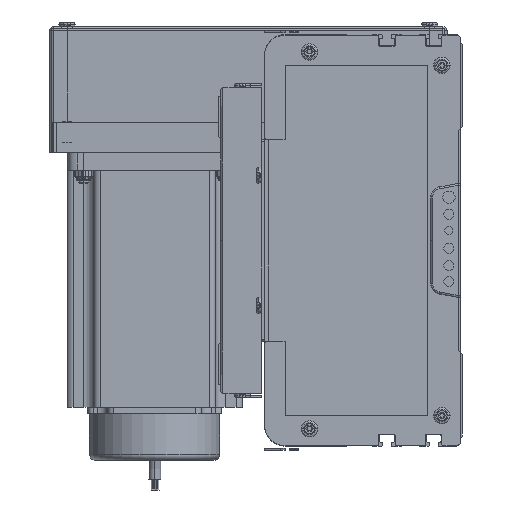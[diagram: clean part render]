
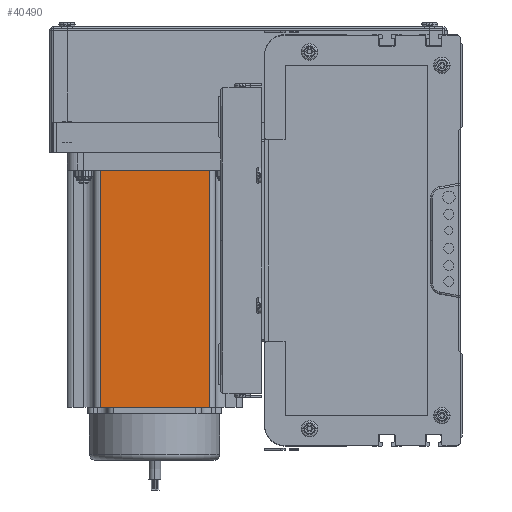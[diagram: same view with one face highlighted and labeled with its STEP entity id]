
A CAD part, left-side view. The second image highlights one B-rep face of the part: STEP entity #40490.
In plain terms, the highlighted planar face has unit normal (-1, 0, 0) as drawn and (0, -1, 0) by its records, which use the part's own axes.
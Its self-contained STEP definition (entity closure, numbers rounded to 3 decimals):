
#40339 = VERTEX_POINT ( 'NONE', #78150 ) ;
#40395 = EDGE_CURVE ( 'NONE', #40339, #40656, #78165, .T. ) ;
#40403 = EDGE_CURVE ( 'NONE', #40339, #40573, #78321, .T. ) ;
#40483 = ORIENTED_EDGE ( 'NONE', *, *, #40395, .F. ) ;
#40490 = ADVANCED_FACE ( 'NONE', ( #99890 ), #99932, .F. ) ;
#40525 = VERTEX_POINT ( 'NONE', #99839 ) ;
#40526 = ORIENTED_EDGE ( 'NONE', *, *, #40528, .T. ) ;
#40527 = ORIENTED_EDGE ( 'NONE', *, *, #40560, .T. ) ;
#40528 = EDGE_CURVE ( 'NONE', #40525, #40656, #99785, .T. ) ;
#40560 = EDGE_CURVE ( 'NONE', #40573, #40525, #99813, .T. ) ;
#40573 = VERTEX_POINT ( 'NONE', #99719 ) ;
#40656 = VERTEX_POINT ( 'NONE', #88379 ) ;
#40680 = EDGE_LOOP ( 'NONE', ( #40527, #40526, #40483, #40796 ) ) ;
#40796 = ORIENTED_EDGE ( 'NONE', *, *, #40403, .T. ) ;
#77869 = VECTOR ( 'NONE', #78436, 1000. ) ;
#78150 = CARTESIAN_POINT ( 'NONE',  ( 16.16, 0., 116.5 ) ) ;
#78164 = CARTESIAN_POINT ( 'NONE',  ( 0., 0., 116.5 ) ) ;
#78165 = LINE ( 'NONE', #78164, #77869 ) ;
#78182 = VECTOR ( 'NONE', #78475, 1000. ) ;
#78319 = CARTESIAN_POINT ( 'NONE',  ( 16.16, 0., 116.5 ) ) ;
#78321 = LINE ( 'NONE', #78319, #78182 ) ;
#78436 = DIRECTION ( 'NONE',  ( 1., 0., 0. ) ) ;
#78475 = DIRECTION ( 'NONE',  ( 0., 0., -1. ) ) ;
#88379 = CARTESIAN_POINT ( 'NONE',  ( 69.74, 0., 116.5 ) ) ;
#99530 = DIRECTION ( 'NONE',  ( 0., 0., 1. ) ) ;
#99532 = DIRECTION ( 'NONE',  ( 0., 1., 0. ) ) ;
#99533 = CARTESIAN_POINT ( 'NONE',  ( 0., 0., 116.5 ) ) ;
#99719 = CARTESIAN_POINT ( 'NONE',  ( 16.16, 0., 0. ) ) ;
#99783 = CARTESIAN_POINT ( 'NONE',  ( 69.74, 0., 116.5 ) ) ;
#99785 = LINE ( 'NONE', #99783, #99924 ) ;
#99805 = DIRECTION ( 'NONE',  ( 1., 0., 0. ) ) ;
#99807 = VECTOR ( 'NONE', #99805, 1000. ) ;
#99810 = CARTESIAN_POINT ( 'NONE',  ( 0., 0., 0. ) ) ;
#99813 = LINE ( 'NONE', #99810, #99807 ) ;
#99839 = CARTESIAN_POINT ( 'NONE',  ( 69.74, 0., 0. ) ) ;
#99890 = FACE_OUTER_BOUND ( 'NONE', #40680, .T. ) ;
#99921 = DIRECTION ( 'NONE',  ( 0., 0., 1. ) ) ;
#99924 = VECTOR ( 'NONE', #99921, 1000. ) ;
#99932 = PLANE ( 'NONE',  #99934 ) ;
#99934 = AXIS2_PLACEMENT_3D ( 'NONE', #99533, #99532, #99530 ) ;
